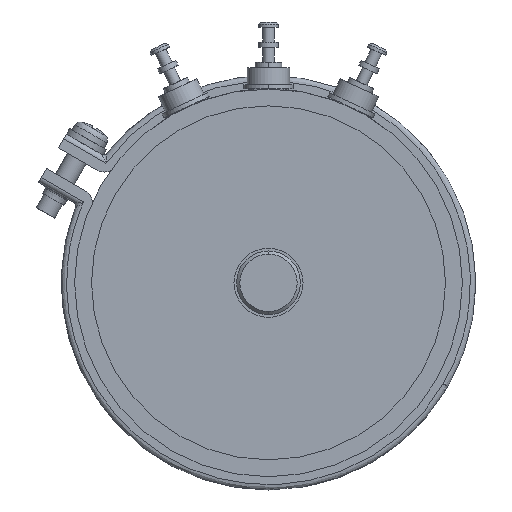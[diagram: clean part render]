
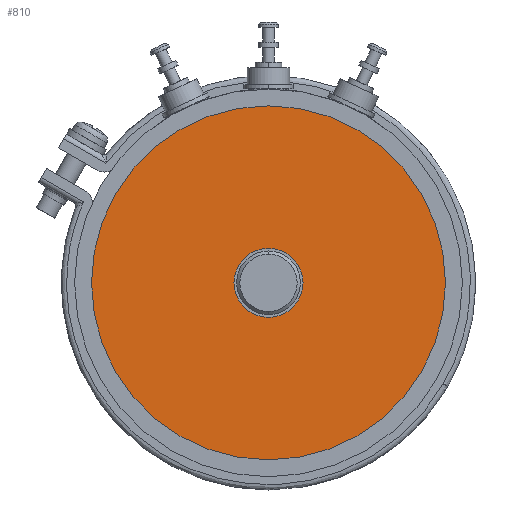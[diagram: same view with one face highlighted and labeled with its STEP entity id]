
A CAD part, front view. The second image highlights one B-rep face of the part: STEP entity #810.
In plain terms, the highlighted planar face has unit normal (0, -1, 0).
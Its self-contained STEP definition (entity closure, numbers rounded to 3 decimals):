
#590 = VERTEX_POINT ( 'NONE', #10087 ) ;
#604 = EDGE_CURVE ( 'NONE', #590, #639, #10116, .T. ) ;
#639 = VERTEX_POINT ( 'NONE', #10185 ) ;
#645 = EDGE_CURVE ( 'NONE', #646, #647, #10173, .T. ) ;
#646 = VERTEX_POINT ( 'NONE', #10168 ) ;
#647 = VERTEX_POINT ( 'NONE', #10167 ) ;
#810 = ADVANCED_FACE ( 'NONE', ( #10493, #10492 ), #10491, .F. ) ;
#811 = EDGE_LOOP ( 'NONE', ( #812, #903 ) ) ;
#812 = ORIENTED_EDGE ( 'NONE', *, *, #645, .F. ) ;
#832 = EDGE_CURVE ( 'NONE', #647, #646, #10571, .T. ) ;
#903 = ORIENTED_EDGE ( 'NONE', *, *, #832, .F. ) ;
#904 = EDGE_CURVE ( 'NONE', #639, #590, #10613, .T. ) ;
#911 = ORIENTED_EDGE ( 'NONE', *, *, #904, .T. ) ;
#919 = EDGE_LOOP ( 'NONE', ( #920, #911 ) ) ;
#920 = ORIENTED_EDGE ( 'NONE', *, *, #604, .T. ) ;
#10087 = CARTESIAN_POINT ( 'NONE',  ( 0., 14.93, -16.66 ) ) ;
#10112 = DIRECTION ( 'NONE',  ( 0., 0., -1. ) ) ;
#10113 = DIRECTION ( 'NONE',  ( 0., -1., 0. ) ) ;
#10114 = CARTESIAN_POINT ( 'NONE',  ( 0., 14.93, 0. ) ) ;
#10115 = AXIS2_PLACEMENT_3D ( 'NONE', #10114, #10113, #10112 ) ;
#10116 = CIRCLE ( 'NONE', #10115, 16.66 ) ;
#10167 = CARTESIAN_POINT ( 'NONE',  ( 0., 14.93, -3.25 ) ) ;
#10168 = CARTESIAN_POINT ( 'NONE',  ( 0., 14.93, 3.25 ) ) ;
#10169 = DIRECTION ( 'NONE',  ( 0., 0., 1. ) ) ;
#10170 = DIRECTION ( 'NONE',  ( 0., -1., 0. ) ) ;
#10171 = CARTESIAN_POINT ( 'NONE',  ( 0., 14.93, 0. ) ) ;
#10172 = AXIS2_PLACEMENT_3D ( 'NONE', #10171, #10170, #10169 ) ;
#10173 = CIRCLE ( 'NONE', #10172, 3.25 ) ;
#10185 = CARTESIAN_POINT ( 'NONE',  ( 0., 14.93, 16.66 ) ) ;
#10487 = DIRECTION ( 'NONE',  ( -1., 0., 0. ) ) ;
#10488 = DIRECTION ( 'NONE',  ( 0., 1., 0. ) ) ;
#10489 = CARTESIAN_POINT ( 'NONE',  ( 16.86, 14.93, -16.86 ) ) ;
#10490 = AXIS2_PLACEMENT_3D ( 'NONE', #10489, #10488, #10487 ) ;
#10491 = PLANE ( 'NONE',  #10490 ) ;
#10492 = FACE_OUTER_BOUND ( 'NONE', #919, .T. ) ;
#10493 = FACE_BOUND ( 'NONE', #811, .T. ) ;
#10564 = DIRECTION ( 'NONE',  ( 0., 0., 1. ) ) ;
#10565 = DIRECTION ( 'NONE',  ( 0., -1., 0. ) ) ;
#10566 = CARTESIAN_POINT ( 'NONE',  ( 0., 14.93, 0. ) ) ;
#10567 = AXIS2_PLACEMENT_3D ( 'NONE', #10566, #10565, #10564 ) ;
#10571 = CIRCLE ( 'NONE', #10567, 3.25 ) ;
#10609 = DIRECTION ( 'NONE',  ( 0., 0., -1. ) ) ;
#10610 = DIRECTION ( 'NONE',  ( 0., -1., 0. ) ) ;
#10611 = CARTESIAN_POINT ( 'NONE',  ( 0., 14.93, 0. ) ) ;
#10612 = AXIS2_PLACEMENT_3D ( 'NONE', #10611, #10610, #10609 ) ;
#10613 = CIRCLE ( 'NONE', #10612, 16.66 ) ;
